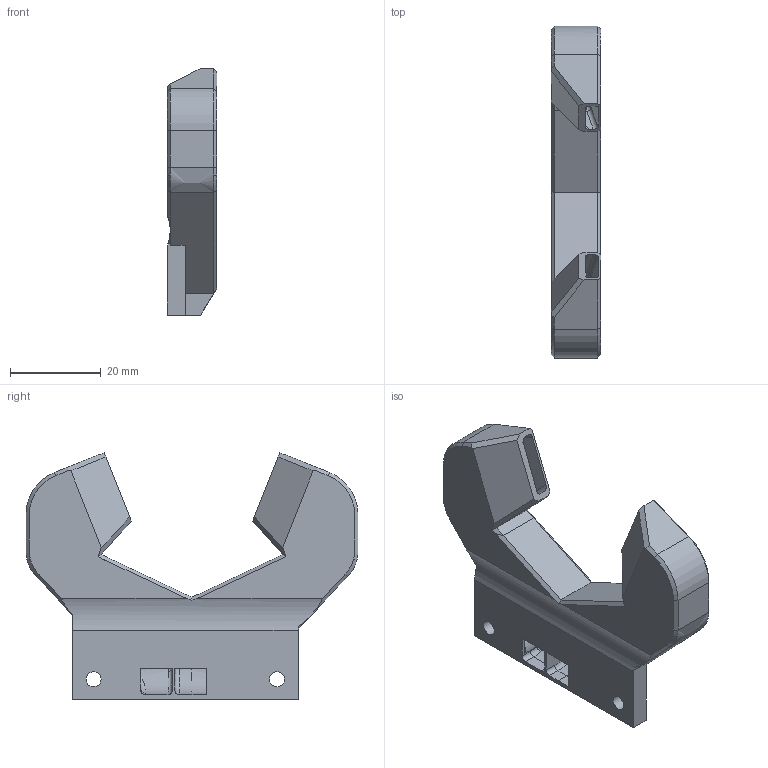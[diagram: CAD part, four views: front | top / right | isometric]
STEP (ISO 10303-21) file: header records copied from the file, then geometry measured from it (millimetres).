
FILE_DESCRIPTION(/* description */ (''),/* implementation_level */ '2;1');
FILE_NAME(/* name */ 'C:/Users/Martin/Documents/icarus-2.1/icarus-2-current-step-files/4-fan-ducts/icarus-fan-duct-low-profile-2.5.step',/* time_stamp */ '2022-09-18T10:42:53+02:00',/* author */ (''),/* organization */ (''),/* preprocessor_version */ 'ST-DEVELOPER v19',/* originating_system */ 'Autodesk Translation Framework v11.7.0.108',/* authorisation */ '');
FILE_SCHEMA (('AUTOMOTIVE_DESIGN { 1 0 10303 214 3 1 1 }'));
Length unit declared in the file: millimetre
Products named in the file (1): icarus-fan-duct-2.1
Bounding box: 11 x 73.3 x 54.4 mm (x, y, z)
Volume: 7722.1 mm3; surface area: 12920.6 mm2
Topology: 1 solids, 1 shells, 232 faces, 599 edges, 369 vertices
Faces by surface type: plane 98, bspline 61, cylinder 60, torus 9, cone 4
Full cylindrical faces by diameter (mm): 3.3 x3
Entity records: 8809 total; most frequent: CARTESIAN_POINT 3480, ORIENTED_EDGE 1190, DIRECTION 959, EDGE_CURVE 595, VERTEX_POINT 367, LINE 323, VECTOR 323, AXIS2_PLACEMENT_3D 318
